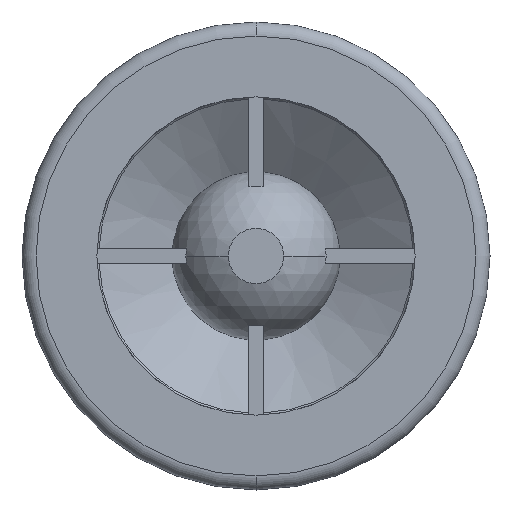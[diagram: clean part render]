
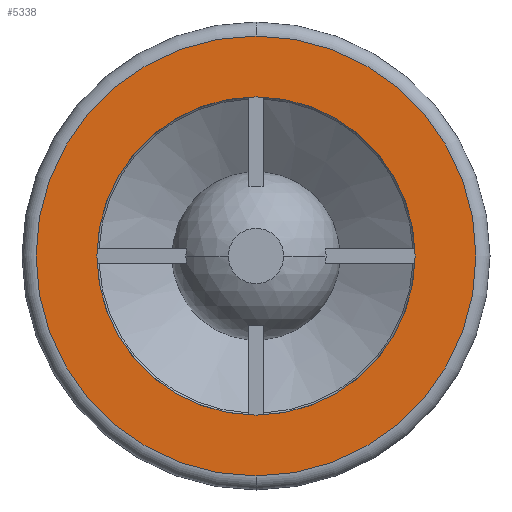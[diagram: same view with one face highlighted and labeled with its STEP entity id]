
A CAD part, front view. The second image highlights one B-rep face of the part: STEP entity #5338.
In plain terms, the highlighted planar face has unit normal (0, -1, 0).
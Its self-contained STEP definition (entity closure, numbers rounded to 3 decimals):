
#154 = EDGE_CURVE ( 'NONE', #5574, #5605, #1691, .T. ) ;
#364 = EDGE_CURVE ( 'NONE', #484, #1456, #2114, .T. ) ;
#484 = VERTEX_POINT ( 'NONE', #2338 ) ;
#1456 = VERTEX_POINT ( 'NONE', #4097 ) ;
#1684 = DIRECTION ( 'NONE',  ( 0., 0., -1. ) ) ;
#1685 = DIRECTION ( 'NONE',  ( 0., -1., 0. ) ) ;
#1686 = CARTESIAN_POINT ( 'NONE',  ( 0., 0., 0. ) ) ;
#1687 = AXIS2_PLACEMENT_3D ( 'NONE', #1686, #1685, #1684 ) ;
#1691 = CIRCLE ( 'NONE', #1687, 17. ) ;
#2106 = DIRECTION ( 'NONE',  ( 0., 0., 1. ) ) ;
#2107 = DIRECTION ( 'NONE',  ( 0., -1., 0. ) ) ;
#2108 = CARTESIAN_POINT ( 'NONE',  ( 0., 0., 0. ) ) ;
#2109 = AXIS2_PLACEMENT_3D ( 'NONE', #2108, #2107, #2106 ) ;
#2114 = CIRCLE ( 'NONE', #2109, 23.5 ) ;
#2338 = CARTESIAN_POINT ( 'NONE',  ( 0., 0., -23.5 ) ) ;
#4097 = CARTESIAN_POINT ( 'NONE',  ( 0., 0., 23.5 ) ) ;
#4343 = DIRECTION ( 'NONE',  ( 0., 0., 1. ) ) ;
#4344 = DIRECTION ( 'NONE',  ( 0., 1., 0. ) ) ;
#4345 = CARTESIAN_POINT ( 'NONE',  ( -17., 0., 0. ) ) ;
#4347 = AXIS2_PLACEMENT_3D ( 'NONE', #4345, #4344, #4343 ) ;
#4348 = PLANE ( 'NONE',  #4347 ) ;
#4349 = FACE_BOUND ( 'NONE', #5321, .T. ) ;
#4350 = FACE_OUTER_BOUND ( 'NONE', #5328, .T. ) ;
#4351 = DIRECTION ( 'NONE',  ( 0., 0., 1. ) ) ;
#4352 = DIRECTION ( 'NONE',  ( 0., -1., 0. ) ) ;
#4353 = CARTESIAN_POINT ( 'NONE',  ( 0., 0., 0. ) ) ;
#4354 = AXIS2_PLACEMENT_3D ( 'NONE', #4353, #4352, #4351 ) ;
#4355 = CIRCLE ( 'NONE', #4354, 23.5 ) ;
#4785 = CARTESIAN_POINT ( 'NONE',  ( 0., 0., -17. ) ) ;
#4787 = AXIS2_PLACEMENT_3D ( 'NONE', #4847, #4846, #4845 ) ;
#4788 = CIRCLE ( 'NONE', #4787, 17. ) ;
#4795 = CARTESIAN_POINT ( 'NONE',  ( 0., 0., 17. ) ) ;
#4845 = DIRECTION ( 'NONE',  ( 0., 0., -1. ) ) ;
#4846 = DIRECTION ( 'NONE',  ( 0., -1., 0. ) ) ;
#4847 = CARTESIAN_POINT ( 'NONE',  ( 0., 0., 0. ) ) ;
#5317 = ORIENTED_EDGE ( 'NONE', *, *, #154, .F. ) ;
#5321 = EDGE_LOOP ( 'NONE', ( #5317, #5322 ) ) ;
#5322 = ORIENTED_EDGE ( 'NONE', *, *, #5609, .F. ) ;
#5325 = ORIENTED_EDGE ( 'NONE', *, *, #364, .T. ) ;
#5326 = ORIENTED_EDGE ( 'NONE', *, *, #5332, .T. ) ;
#5328 = EDGE_LOOP ( 'NONE', ( #5326, #5325 ) ) ;
#5332 = EDGE_CURVE ( 'NONE', #1456, #484, #4355, .T. ) ;
#5338 = ADVANCED_FACE ( 'NONE', ( #4350, #4349 ), #4348, .F. ) ;
#5574 = VERTEX_POINT ( 'NONE', #4785 ) ;
#5605 = VERTEX_POINT ( 'NONE', #4795 ) ;
#5609 = EDGE_CURVE ( 'NONE', #5605, #5574, #4788, .T. ) ;
